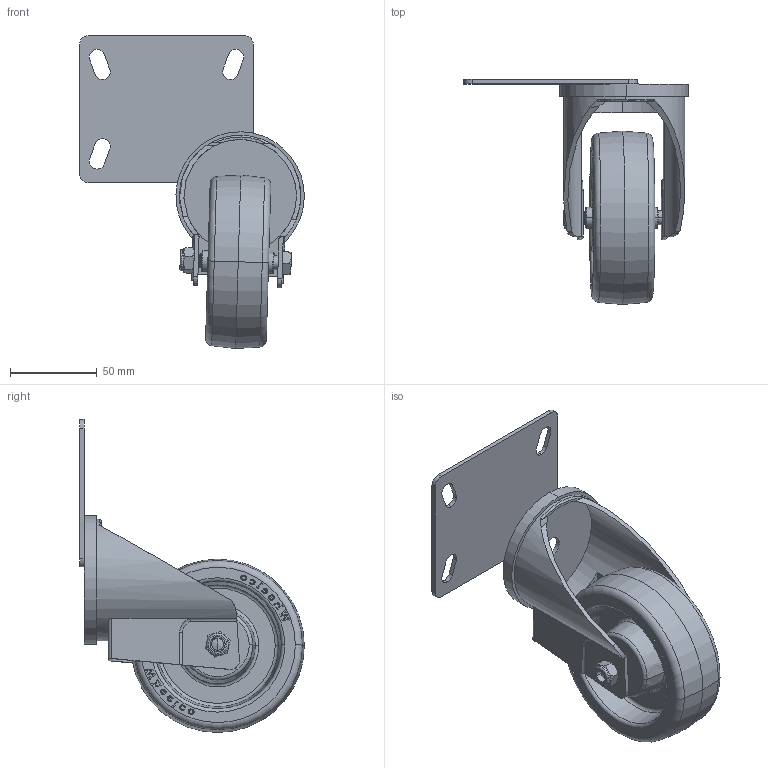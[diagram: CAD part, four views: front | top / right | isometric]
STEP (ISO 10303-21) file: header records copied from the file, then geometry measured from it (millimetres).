
FILE_DESCRIPTION (( 'STEP AP214' ), '1' );
FILE_NAME ('MSU100-SP.step', '2024-01-21T22:23:05', ( '' ), ( '' ), 'SwSTEP 2.0', 'SolidWorks 2022', '' );
FILE_SCHEMA (( 'AUTOMOTIVE_DESIGN' ));
Length unit declared in the file: millimetre
Products named in the file (7): MSU100_Re-size; 100X85 ANGLED; SP12-8-41-SS; MSU100-SP; M8x55-SS; M8Nyloc-SS
Assembly tree (6 placements, depth 2):
  MSU100-SP
    100X85 ANGLED
    MSU100-SP
    SP12-8-41-SS
    M8x55-SS
    M8Nyloc-SS
    MSU100_Re-size
Bounding box: 129.48 x 129.5 x 180.46 mm (x, y, z)
Volume: 243050.7 mm3; surface area: 92135.1 mm2
Topology: 6 solids, 6 shells, 919 faces, 2466 edges, 1630 vertices
Faces by surface type: plane 443, bspline 307, cylinder 104, cone 32, torus 31, sphere 2
Entity records: 49758 total; most frequent: CARTESIAN_POINT 27993, ORIENTED_EDGE 4932, DIRECTION 3137, EDGE_CURVE 2466, VERTEX_POINT 1630, LINE 1497, VECTOR 1497, EDGE_LOOP 1010
